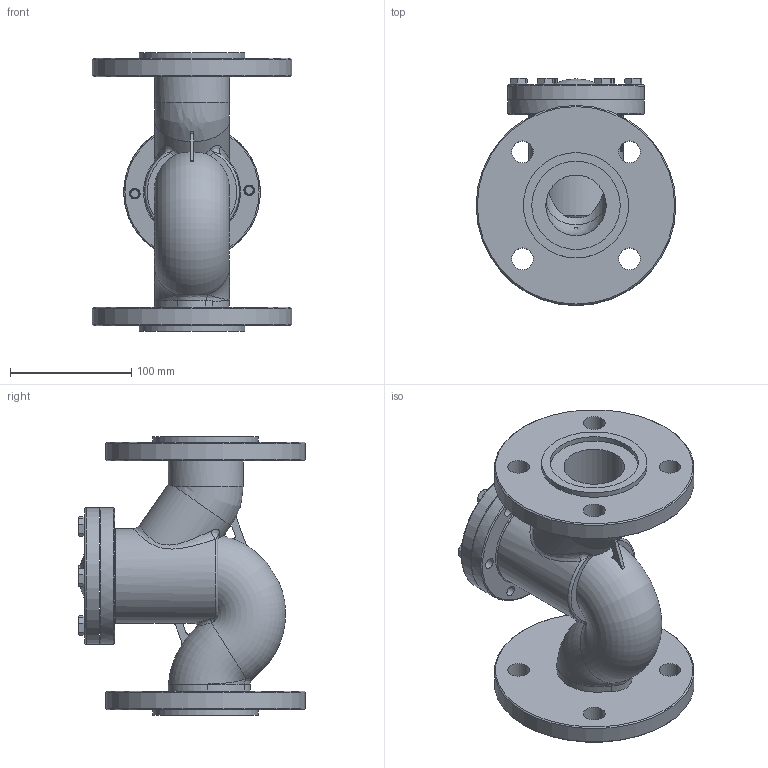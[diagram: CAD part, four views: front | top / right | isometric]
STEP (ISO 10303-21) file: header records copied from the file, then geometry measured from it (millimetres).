
FILE_DESCRIPTION(('STEP AP214'), '1');
FILE_NAME('VCR3434-F 孰囡囗 钺疣蝽 DN.ru 捏50 畜40', '', ('UNSPECIFIED'), ('UNSPECIFIED'), 'C3D Converter', 'C3D Toolkit', '');
FILE_SCHEMA(('AUTOMOTIVE_DESIGN { 1 0 10303 214 3 1 1}'));
Length unit declared in the file: millimetre
Products named in the file (1): VCR3434-F
Bounding box: 165 x 187.5 x 230 mm (x, y, z)
Volume: 247138.1 mm3; surface area: 250770.5 mm2
Topology: 1 solids, 2 shells, 344 faces, 847 edges, 541 vertices
Faces by surface type: plane 176, cylinder 60, bspline 47, cone 46, torus 11, extrusion 3, sphere 1
Full cylindrical faces by diameter (mm): 8 x6, 8.751 x12, 13 x6, 15 x1, 18 x8, 50 x3, 62 x2, 73 x2, 78.072 x1, 87 x2, 112.753 x2, 165 x2
Entity records: 22071 total; most frequent: CARTESIAN_POINT 13175, ORIENTED_EDGE 1533, DIRECTION 1352, EDGE_CURVE 779, AXIS2_PLACEMENT_3D 555, VERTEX_POINT 540, EDGE_LOOP 480, FACE_BOUND 395
